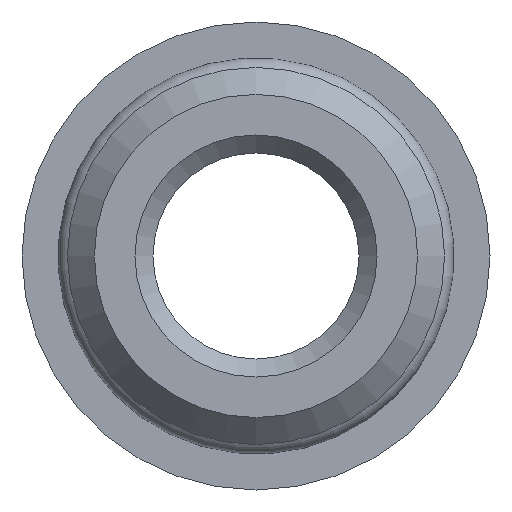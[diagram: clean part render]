
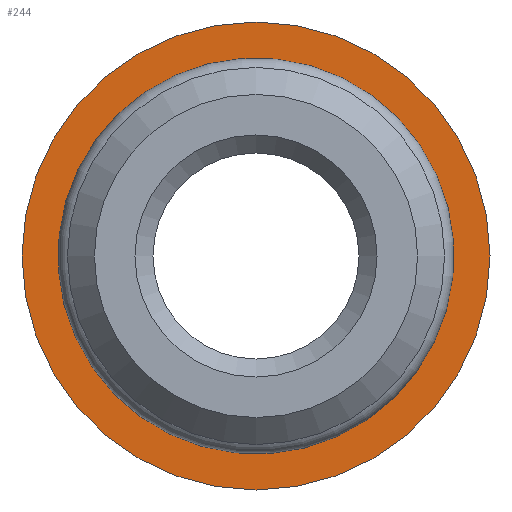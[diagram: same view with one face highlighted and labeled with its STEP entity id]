
A CAD part, front view. The second image highlights one B-rep face of the part: STEP entity #244.
In plain terms, the highlighted planar face has unit normal (0, -1, 0).
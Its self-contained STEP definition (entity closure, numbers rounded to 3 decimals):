
#244=ADVANCED_FACE('',(#835,#837),#839,.F.);
#835=FACE_BOUND('',#836,.T.);
#836=EDGE_LOOP('',(#1402));
#837=FACE_BOUND('',#838,.T.);
#838=EDGE_LOOP('',(#1403));
#839=PLANE('',#840);
#840=AXIS2_PLACEMENT_3D('',#841,#842,#843);
#841=CARTESIAN_POINT('',(0.,0.,0.));
#842=DIRECTION('',(0.,1.,0.));
#843=DIRECTION('',(-1.,0.,0.));
#1402=ORIENTED_EDGE('',*,*,#1622,.F.);
#1403=ORIENTED_EDGE('',*,*,#1623,.T.);
#1622=EDGE_CURVE('',#1982,#1982,#1983,.T.);
#1623=EDGE_CURVE('',#1984,#1984,#1985,.T.);
#1982=VERTEX_POINT('',#3528);
#1983=CIRCLE('',#3529,13.);
#1984=VERTEX_POINT('',#3533);
#1985=CIRCLE('',#3534,10.);
#3528=CARTESIAN_POINT('',(-13.,0.,0.));
#3529=AXIS2_PLACEMENT_3D('',#3530,#3531,#3532);
#3530=CARTESIAN_POINT('',(0.,0.,0.));
#3531=DIRECTION('',(0.,1.,0.));
#3532=DIRECTION('',(-1.,0.,0.));
#3533=CARTESIAN_POINT('',(10.,0.,0.));
#3534=AXIS2_PLACEMENT_3D('',#3535,#3536,#3537);
#3535=CARTESIAN_POINT('',(0.,0.,0.));
#3536=DIRECTION('',(0.,1.,0.));
#3537=DIRECTION('',(1.,0.,0.));
